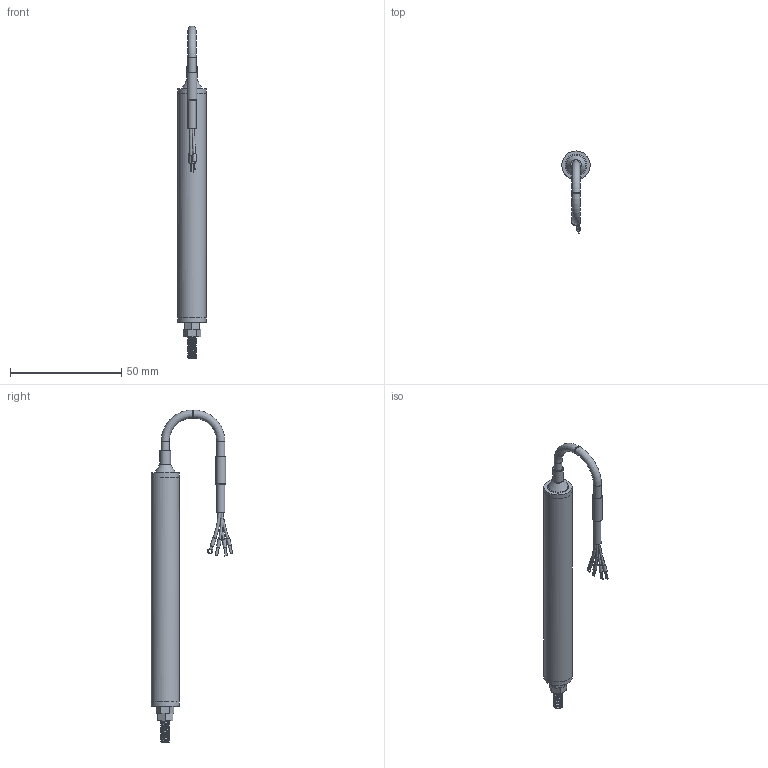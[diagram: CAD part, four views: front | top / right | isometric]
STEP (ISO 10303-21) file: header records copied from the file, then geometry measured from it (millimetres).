
FILE_DESCRIPTION(/* description */ (''),/* implementation_level */ '2;1');
FILE_NAME(/* name */ 'LPPS-12-050-A Assembly (wrapped).step',/* time_stamp */ '2023-10-10T09:59:08-04:00',/* author */ ('TSC_Grant'),/* organization */ (''),/* preprocessor_version */ 'ST-DEVELOPER v19.2',/* originating_system */ 'Autodesk Inventor 2024',/* authorisation */ '');
FILE_SCHEMA (('AUTOMOTIVE_DESIGN { 1 0 10303 214 3 1 1 }'));
Length unit declared in the file: inch
Products named in the file (4): LPPS-12-010-A Assembly (wrapped); LPPS-12-010-A Body (wrapped); LPPS-12-010-A Assembly_Simplify_1; Wire
Assembly tree (3 placements, depth 2):
  LPPS-12-010-A Assembly (wrapped)
    LPPS-12-010-A Body (wrapped)
    LPPS-12-010-A Assembly_Simplify_1
    Wire
Bounding box: 12.7 x 36.8 x 149.24 mm (x, y, z)
Volume: 14138.9 mm3; surface area: 8875 mm2
Topology: 13 solids, 13 shells, 133 faces, 287 edges, 191 vertices
Faces by surface type: plane 75, cylinder 44, bspline 8, torus 5, cone 1
Full cylindrical faces by diameter (mm): 1.016 x3, 1.27 x1, 1.524 x3, 1.651 x2, 3.632 x6, 3.937 x8, 4.191 x1, 4.445 x1, 4.826 x1, 12.7 x3
Entity records: 5490 total; most frequent: CARTESIAN_POINT 2221, DIRECTION 621, ORIENTED_EDGE 574, EDGE_CURVE 287, AXIS2_PLACEMENT_3D 237, VERTEX_POINT 191, EDGE_LOOP 150, LINE 147
